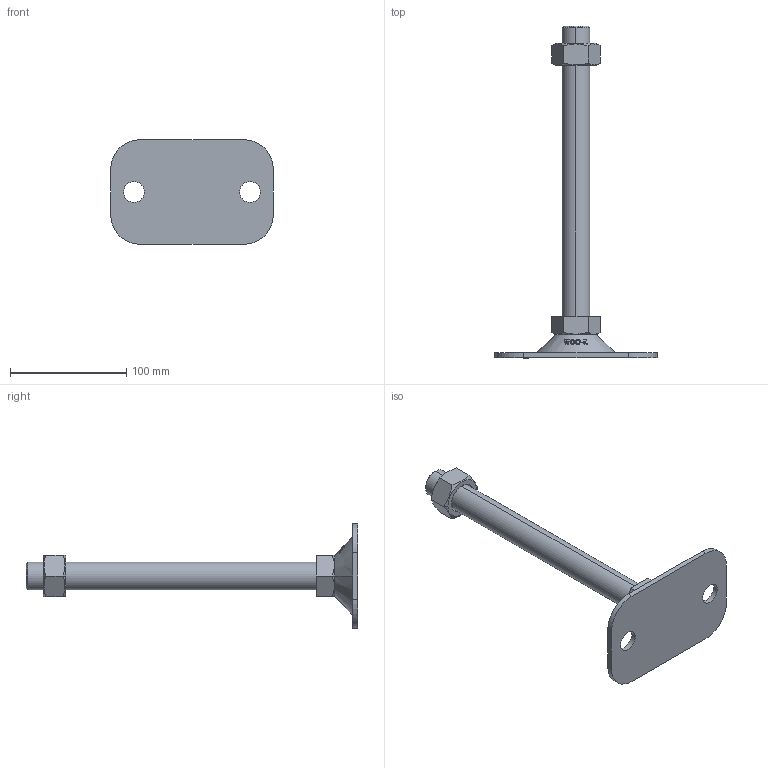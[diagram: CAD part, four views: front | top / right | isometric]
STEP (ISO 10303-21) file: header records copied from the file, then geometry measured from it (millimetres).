
FILE_DESCRIPTION (( 'STEP AP214' ), '1' );
FILE_NAME ('FABL90140-M24-250.step', '2021-03-28T23:54:25', ( '' ), ( '' ), 'SwSTEP 2.0', 'SolidWorks 2019', '' );
FILE_SCHEMA (( 'AUTOMOTIVE_DESIGN' ));
Length unit declared in the file: millimetre
Products named in the file (2): FABL90140-M24-250
Bounding box: 140 x 286 x 90 mm (x, y, z)
Volume: 228650.5 mm3; surface area: 52502.8 mm2
Topology: 2 solids, 2 shells, 130 faces, 333 edges, 218 vertices
Faces by surface type: plane 50, cylinder 40, cone 22, bspline 18
Entity records: 5607 total; most frequent: CARTESIAN_POINT 2649, ORIENTED_EDGE 666, DIRECTION 485, EDGE_CURVE 333, VERTEX_POINT 218, AXIS2_PLACEMENT_3D 178, EDGE_LOOP 147, B_SPLINE_CURVE_WITH_KNOTS 140
